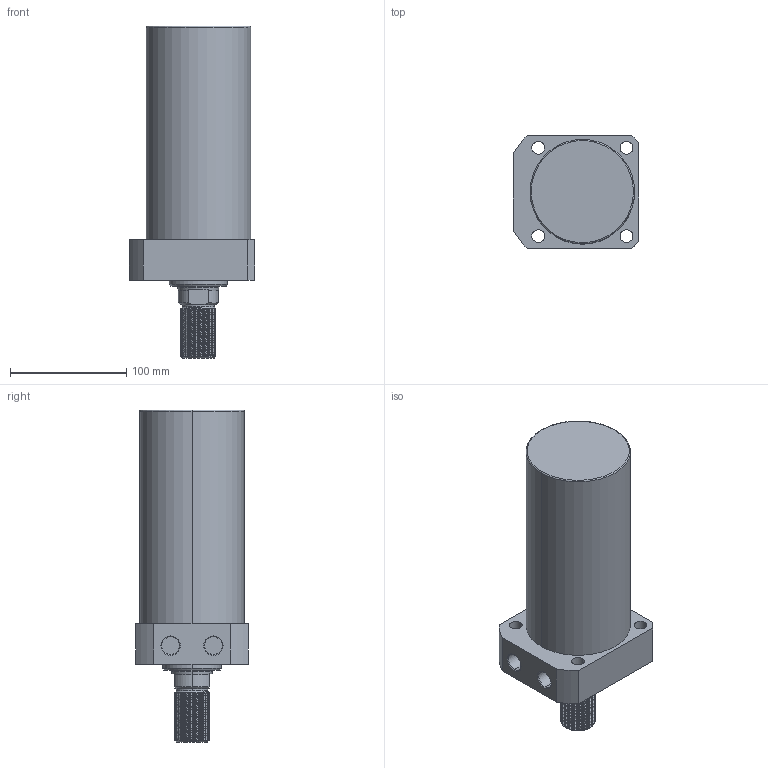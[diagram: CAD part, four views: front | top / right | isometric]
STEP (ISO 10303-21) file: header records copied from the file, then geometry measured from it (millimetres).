
FILE_DESCRIPTION (( 'STEP AP214' ), '1' );
FILE_NAME ('CLLR-090CT-140.STEP', '2020-01-10T02:45:50', ( 'Windows' ), ( 'Microsoft' ), 'SwSTEP 2.0', 'SolidWorks 2015', '' );
FILE_SCHEMA (( 'AUTOMOTIVE_DESIGN' ));
Length unit declared in the file: millimetre
Products named in the file (1): CLLR-090CT-140
Bounding box: 108 x 97 x 286 mm (x, y, z)
Volume: 1564503.9 mm3; surface area: 100885.1 mm2
Topology: 1 solids, 1 shells, 126 faces, 333 edges, 217 vertices
Faces by surface type: cylinder 86, plane 20, cone 16, torus 2, bspline 2
Entity records: 7043 total; most frequent: CARTESIAN_POINT 4127, ORIENTED_EDGE 666, DIRECTION 535, EDGE_CURVE 333, VERTEX_POINT 217, AXIS2_PLACEMENT_3D 206, EDGE_LOOP 142, FACE_OUTER_BOUND 126
